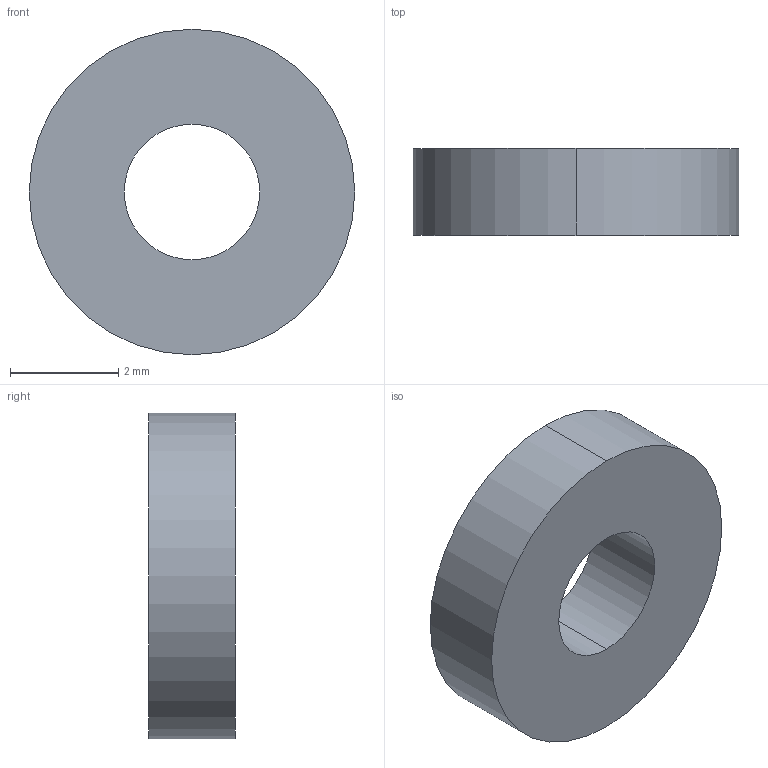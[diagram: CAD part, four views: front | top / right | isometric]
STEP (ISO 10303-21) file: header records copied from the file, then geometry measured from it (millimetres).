
FILE_DESCRIPTION (( 'STEP AP214' ), '1' );
FILE_NAME ('Arandela goma PP86 B.STEP', '2016-11-14T15:06:05', ( 'aaa' ), ( '' ), 'SwSTEP 2.0', 'SolidWorks 2013', '' );
FILE_SCHEMA (( 'AUTOMOTIVE_DESIGN' ));
Length unit declared in the file: millimetre
Products named in the file (1): Arandela goma PP86 B
Bounding box: 6 x 1.6 x 6 mm (x, y, z)
Volume: 37.4 mm3; surface area: 89.5 mm2
Topology: 1 solids, 1 shells, 6 faces, 12 edges, 8 vertices
Faces by surface type: cylinder 4, plane 2
Entity records: 202 total; most frequent: DIRECTION 34, CARTESIAN_POINT 27, ORIENTED_EDGE 24, AXIS2_PLACEMENT_3D 15, EDGE_CURVE 12, EDGE_LOOP 8, CIRCLE 8, VERTEX_POINT 8
